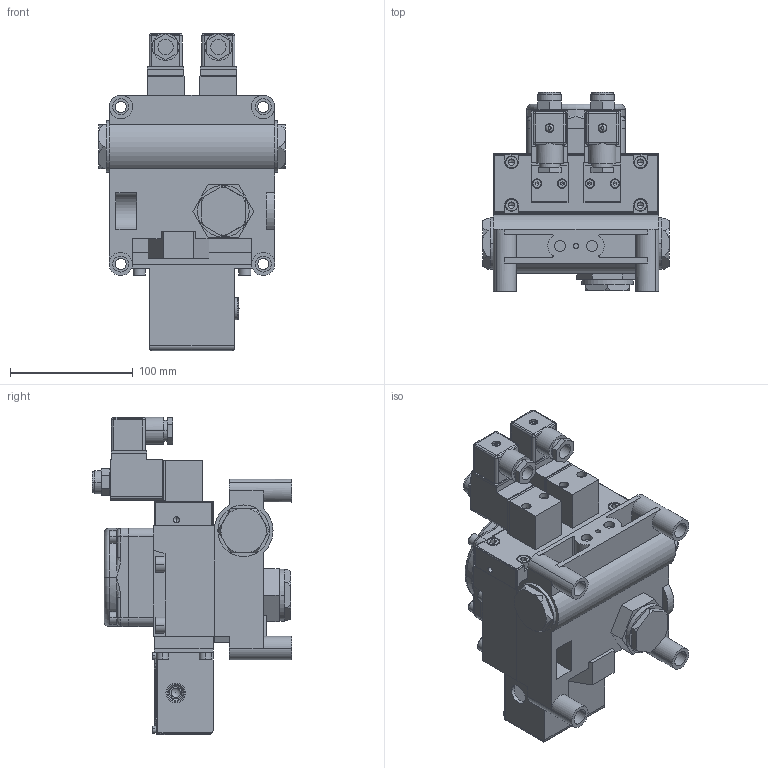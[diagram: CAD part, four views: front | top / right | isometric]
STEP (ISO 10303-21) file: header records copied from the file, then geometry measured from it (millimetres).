
FILE_DESCRIPTION (( 'STEP AP203' ), '1' );
FILE_NAME ('VSP-06.STEP', '2020-05-27T11:05:42', ( '' ), ( '' ), 'SwSTEP 2.0', 'SolidWorks 2019', '' );
FILE_SCHEMA (( 'CONFIG_CONTROL_DESIGN' ));
Length unit declared in the file: millimetre
Products named in the file (1): VSP-06
Bounding box: 152 x 162.05 x 258.3 mm (x, y, z)
Volume: 1338695.6 mm3; surface area: 458958.4 mm2
Topology: 67 solids, 67 shells, 2803 faces, 6947 edges, 4436 vertices
Faces by surface type: plane 1247, cylinder 1136, cone 262, torus 114, bspline 30, sphere 14
Entity records: 90267 total; most frequent: CARTESIAN_POINT 23976, DIRECTION 13694, ORIENTED_EDGE 13684, EDGE_CURVE 6842, AXIS2_PLACEMENT_3D 5101, VERTEX_POINT 4433, VECTOR 3492, LINE 3492
